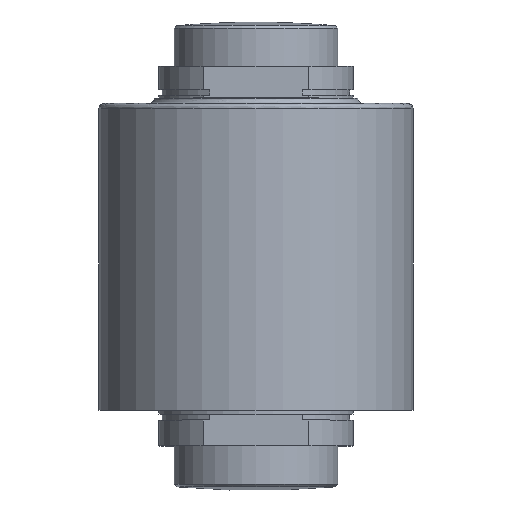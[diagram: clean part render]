
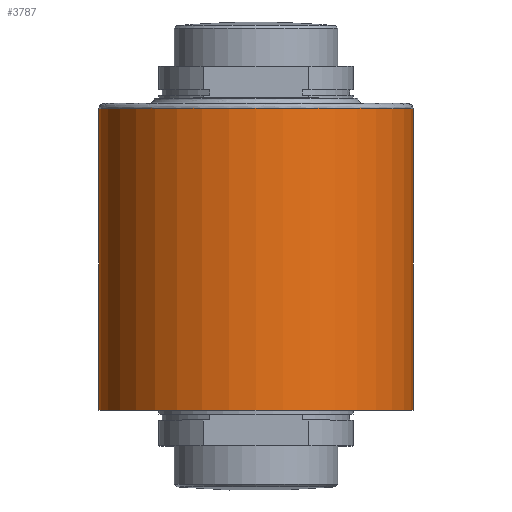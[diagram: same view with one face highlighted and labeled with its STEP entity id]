
A CAD part, top view. The second image highlights one B-rep face of the part: STEP entity #3787.
In plain terms, the highlighted cylindrical face has radius 59.5 mm (diameter 119 mm), a partial arc.
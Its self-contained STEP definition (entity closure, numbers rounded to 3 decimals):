
#243 = CARTESIAN_POINT ( 'NONE',  ( 0., 30.5, 0. ) ) ;
#257 = VERTEX_POINT ( 'NONE', #4866 ) ;
#883 = DIRECTION ( 'NONE',  ( 0., 0., -1. ) ) ;
#1206 = VECTOR ( 'NONE', #6270, 1000. ) ;
#1284 = FACE_OUTER_BOUND ( 'NONE', #4289, .T. ) ;
#1566 = CIRCLE ( 'NONE', #2392, 59.5 ) ;
#1713 = DIRECTION ( 'NONE',  ( 0., 0., -1. ) ) ;
#2234 = CARTESIAN_POINT ( 'NONE',  ( 0., 0., 59.5 ) ) ;
#2275 = LINE ( 'NONE', #2234, #1206 ) ;
#2350 = ORIENTED_EDGE ( 'NONE', *, *, #3522, .T. ) ;
#2366 = DIRECTION ( 'NONE',  ( 0., -1., 0. ) ) ;
#2392 = AXIS2_PLACEMENT_3D ( 'NONE', #243, #3188, #883 ) ;
#2638 = AXIS2_PLACEMENT_3D ( 'NONE', #6948, #2366, #1713 ) ;
#2813 = DIRECTION ( 'NONE',  ( 0., -1., 0. ) ) ;
#2868 = ORIENTED_EDGE ( 'NONE', *, *, #6932, .T. ) ;
#2908 = EDGE_CURVE ( 'NONE', #4163, #7093, #2275, .T. ) ;
#3188 = DIRECTION ( 'NONE',  ( 0., 1., 0. ) ) ;
#3522 = EDGE_CURVE ( 'NONE', #4042, #7093, #1566, .T. ) ;
#3787 = ADVANCED_FACE ( 'NONE', ( #1284 ), #6287, .T. ) ;
#4042 = VERTEX_POINT ( 'NONE', #5067 ) ;
#4163 = VERTEX_POINT ( 'NONE', #6869 ) ;
#4215 = ORIENTED_EDGE ( 'NONE', *, *, #2908, .F. ) ;
#4289 = EDGE_LOOP ( 'NONE', ( #4215, #6064, #2868, #2350 ) ) ;
#4635 = CARTESIAN_POINT ( 'NONE',  ( 0., 0., -59.5 ) ) ;
#4809 = CIRCLE ( 'NONE', #6241, 59.5 ) ;
#4866 = CARTESIAN_POINT ( 'NONE',  ( 0., 144.822, -59.5 ) ) ;
#5067 = CARTESIAN_POINT ( 'NONE',  ( 0., 30.5, -59.5 ) ) ;
#5180 = EDGE_CURVE ( 'NONE', #4163, #257, #4809, .T. ) ;
#5538 = DIRECTION ( 'NONE',  ( 0., -1., 0. ) ) ;
#5786 = LINE ( 'NONE', #4635, #7115 ) ;
#5858 = CARTESIAN_POINT ( 'NONE',  ( 0., 30.5, 59.5 ) ) ;
#6064 = ORIENTED_EDGE ( 'NONE', *, *, #5180, .T. ) ;
#6241 = AXIS2_PLACEMENT_3D ( 'NONE', #7166, #5538, #7208 ) ;
#6270 = DIRECTION ( 'NONE',  ( 0., -1., 0. ) ) ;
#6287 = CYLINDRICAL_SURFACE ( 'NONE', #2638, 59.5 ) ;
#6869 = CARTESIAN_POINT ( 'NONE',  ( 0., 144.822, 59.5 ) ) ;
#6932 = EDGE_CURVE ( 'NONE', #257, #4042, #5786, .T. ) ;
#6948 = CARTESIAN_POINT ( 'NONE',  ( 0., 0., 0. ) ) ;
#7093 = VERTEX_POINT ( 'NONE', #5858 ) ;
#7115 = VECTOR ( 'NONE', #2813, 1000. ) ;
#7166 = CARTESIAN_POINT ( 'NONE',  ( 0., 144.822, 0. ) ) ;
#7208 = DIRECTION ( 'NONE',  ( 0., 0., -1. ) ) ;
